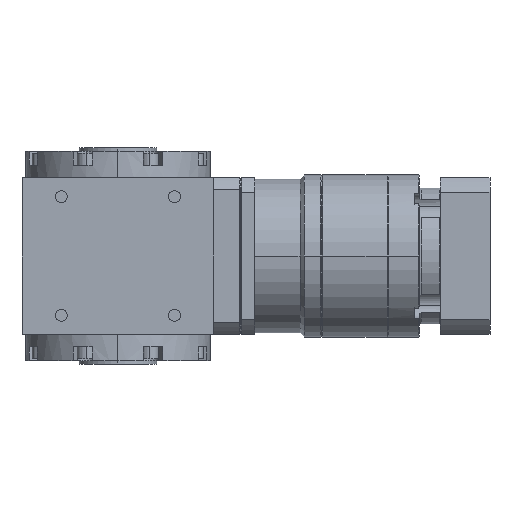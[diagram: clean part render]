
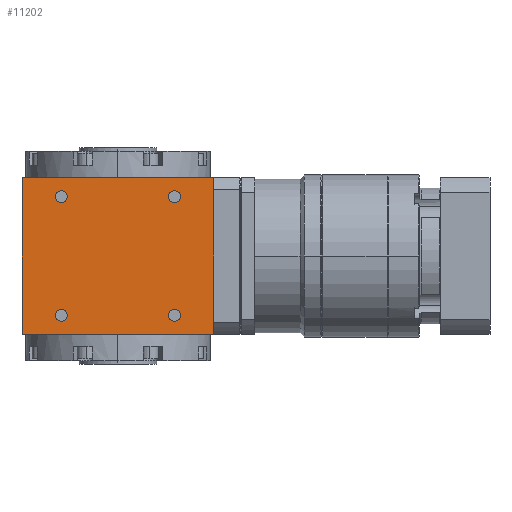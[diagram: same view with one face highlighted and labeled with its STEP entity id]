
A CAD part, left-side view. The second image highlights one B-rep face of the part: STEP entity #11202.
In plain terms, the highlighted planar face has unit normal (-1, 0, 0).
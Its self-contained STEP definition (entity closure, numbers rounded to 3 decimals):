
#271 = CARTESIAN_POINT ( 'NONE',  ( -55., -55., -45. ) ) ;
#272 = DIRECTION ( 'NONE',  ( 0., -1., 0. ) ) ;
#544 = CARTESIAN_POINT ( 'NONE',  ( -55., 29.1, 34. ) ) ;
#702 = AXIS2_PLACEMENT_3D ( 'NONE', #6151, #7233, #1835 ) ;
#737 = VERTEX_POINT ( 'NONE', #8439 ) ;
#740 = CARTESIAN_POINT ( 'NONE',  ( -55., -55., -45. ) ) ;
#814 = EDGE_CURVE ( 'NONE', #5745, #1690, #6942, .T. ) ;
#829 = CARTESIAN_POINT ( 'NONE',  ( -55., -29.1, -34. ) ) ;
#994 = ORIENTED_EDGE ( 'NONE', *, *, #3991, .F. ) ;
#1082 = VERTEX_POINT ( 'NONE', #271 ) ;
#1084 = VERTEX_POINT ( 'NONE', #544 ) ;
#1160 = AXIS2_PLACEMENT_3D ( 'NONE', #11432, #12711, #10641 ) ;
#1309 = CARTESIAN_POINT ( 'NONE',  ( -55., 32.5, -34. ) ) ;
#1394 = CIRCLE ( 'NONE', #1160, 3.4 ) ;
#1610 = FACE_BOUND ( 'NONE', #4603, .T. ) ;
#1657 = DIRECTION ( 'NONE',  ( 0., -1., 0. ) ) ;
#1690 = VERTEX_POINT ( 'NONE', #10479 ) ;
#1771 = VECTOR ( 'NONE', #11636, 1000. ) ;
#1835 = DIRECTION ( 'NONE',  ( 0., -1., 0. ) ) ;
#1875 = EDGE_CURVE ( 'NONE', #4133, #1084, #8519, .T. ) ;
#2051 = ORIENTED_EDGE ( 'NONE', *, *, #3658, .F. ) ;
#2052 = AXIS2_PLACEMENT_3D ( 'NONE', #11522, #13871, #12587 ) ;
#2156 = CIRCLE ( 'NONE', #9650, 3.4 ) ;
#2277 = CIRCLE ( 'NONE', #2052, 3.4 ) ;
#2528 = FACE_OUTER_BOUND ( 'NONE', #9626, .T. ) ;
#2548 = CARTESIAN_POINT ( 'NONE',  ( -55., 0., 45. ) ) ;
#2675 = ORIENTED_EDGE ( 'NONE', *, *, #4888, .T. ) ;
#2712 = ORIENTED_EDGE ( 'NONE', *, *, #12913, .T. ) ;
#2854 = AXIS2_PLACEMENT_3D ( 'NONE', #3881, #8232, #7158 ) ;
#2903 = ORIENTED_EDGE ( 'NONE', *, *, #5130, .T. ) ;
#2906 = ORIENTED_EDGE ( 'NONE', *, *, #5305, .T. ) ;
#2994 = DIRECTION ( 'NONE',  ( 0., -1., 0. ) ) ;
#3439 = EDGE_CURVE ( 'NONE', #1084, #4133, #5835, .T. ) ;
#3464 = CARTESIAN_POINT ( 'NONE',  ( -55., 55., 45. ) ) ;
#3658 = EDGE_CURVE ( 'NONE', #11917, #737, #5528, .T. ) ;
#3881 = CARTESIAN_POINT ( 'NONE',  ( -55., 32.5, -34. ) ) ;
#3991 = EDGE_CURVE ( 'NONE', #9541, #11917, #4929, .T. ) ;
#4133 = VERTEX_POINT ( 'NONE', #6677 ) ;
#4304 = EDGE_LOOP ( 'NONE', ( #9948, #11563 ) ) ;
#4319 = VECTOR ( 'NONE', #272, 1000. ) ;
#4603 = EDGE_LOOP ( 'NONE', ( #2906, #2675 ) ) ;
#4638 = ORIENTED_EDGE ( 'NONE', *, *, #1875, .T. ) ;
#4888 = EDGE_CURVE ( 'NONE', #9495, #9686, #2277, .T. ) ;
#4929 = LINE ( 'NONE', #7137, #1771 ) ;
#4933 = CARTESIAN_POINT ( 'NONE',  ( -55., 55., -45. ) ) ;
#4955 = EDGE_CURVE ( 'NONE', #11305, #9511, #5444, .T. ) ;
#5045 = DIRECTION ( 'NONE',  ( 0., 0., 1. ) ) ;
#5130 = EDGE_CURVE ( 'NONE', #9541, #1082, #5789, .T. ) ;
#5305 = EDGE_CURVE ( 'NONE', #9686, #9495, #1394, .T. ) ;
#5410 = DIRECTION ( 'NONE',  ( 1., 0., 0. ) ) ;
#5444 = CIRCLE ( 'NONE', #702, 3.4 ) ;
#5469 = EDGE_LOOP ( 'NONE', ( #2712, #6901 ) ) ;
#5528 = LINE ( 'NONE', #2548, #9947 ) ;
#5745 = VERTEX_POINT ( 'NONE', #7384 ) ;
#5789 = LINE ( 'NONE', #8936, #4319 ) ;
#5813 = DIRECTION ( 'NONE',  ( 0., -1., 0. ) ) ;
#5835 = CIRCLE ( 'NONE', #12458, 3.4 ) ;
#5838 = ORIENTED_EDGE ( 'NONE', *, *, #3439, .T. ) ;
#5861 = FACE_BOUND ( 'NONE', #5469, .T. ) ;
#6013 = AXIS2_PLACEMENT_3D ( 'NONE', #10842, #5410, #2994 ) ;
#6151 = CARTESIAN_POINT ( 'NONE',  ( -55., -32.5, 34. ) ) ;
#6202 = CARTESIAN_POINT ( 'NONE',  ( -55., -29.1, 34. ) ) ;
#6347 = CARTESIAN_POINT ( 'NONE',  ( -55., 55., -45. ) ) ;
#6677 = CARTESIAN_POINT ( 'NONE',  ( -55., 35.9, 34. ) ) ;
#6702 = CARTESIAN_POINT ( 'NONE',  ( -55., -35.9, -34. ) ) ;
#6901 = ORIENTED_EDGE ( 'NONE', *, *, #4955, .T. ) ;
#6942 = CIRCLE ( 'NONE', #2854, 3.4 ) ;
#7079 = FACE_BOUND ( 'NONE', #9338, .T. ) ;
#7137 = CARTESIAN_POINT ( 'NONE',  ( -55., 55., -45. ) ) ;
#7158 = DIRECTION ( 'NONE',  ( 0., -1., 0. ) ) ;
#7233 = DIRECTION ( 'NONE',  ( 1., 0., 0. ) ) ;
#7260 = EDGE_CURVE ( 'NONE', #1690, #5745, #9818, .T. ) ;
#7384 = CARTESIAN_POINT ( 'NONE',  ( -55., 35.9, -34. ) ) ;
#7533 = DIRECTION ( 'NONE',  ( 0., -1., 0. ) ) ;
#7646 = ORIENTED_EDGE ( 'NONE', *, *, #8099, .T. ) ;
#7907 = DIRECTION ( 'NONE',  ( 1., 0., 0. ) ) ;
#8006 = PLANE ( 'NONE',  #9967 ) ;
#8099 = EDGE_CURVE ( 'NONE', #1082, #737, #11763, .T. ) ;
#8232 = DIRECTION ( 'NONE',  ( 1., 0., 0. ) ) ;
#8439 = CARTESIAN_POINT ( 'NONE',  ( -55., -55., 45. ) ) ;
#8519 = CIRCLE ( 'NONE', #6013, 3.4 ) ;
#8677 = DIRECTION ( 'NONE',  ( 1., 0., 0. ) ) ;
#8936 = CARTESIAN_POINT ( 'NONE',  ( -55., 0., -45. ) ) ;
#9219 = FACE_BOUND ( 'NONE', #4304, .T. ) ;
#9338 = EDGE_LOOP ( 'NONE', ( #5838, #4638 ) ) ;
#9495 = VERTEX_POINT ( 'NONE', #829 ) ;
#9511 = VERTEX_POINT ( 'NONE', #11786 ) ;
#9541 = VERTEX_POINT ( 'NONE', #6347 ) ;
#9626 = EDGE_LOOP ( 'NONE', ( #994, #2903, #7646, #2051 ) ) ;
#9650 = AXIS2_PLACEMENT_3D ( 'NONE', #11553, #10537, #1657 ) ;
#9686 = VERTEX_POINT ( 'NONE', #6702 ) ;
#9818 = CIRCLE ( 'NONE', #10958, 3.4 ) ;
#9914 = VECTOR ( 'NONE', #5045, 1000. ) ;
#9947 = VECTOR ( 'NONE', #5813, 1000. ) ;
#9948 = ORIENTED_EDGE ( 'NONE', *, *, #7260, .T. ) ;
#9967 = AXIS2_PLACEMENT_3D ( 'NONE', #4933, #10429, #13578 ) ;
#10429 = DIRECTION ( 'NONE',  ( -1., 0., 0. ) ) ;
#10479 = CARTESIAN_POINT ( 'NONE',  ( -55., 29.1, -34. ) ) ;
#10537 = DIRECTION ( 'NONE',  ( 1., 0., 0. ) ) ;
#10641 = DIRECTION ( 'NONE',  ( 0., -1., 0. ) ) ;
#10842 = CARTESIAN_POINT ( 'NONE',  ( -55., 32.5, 34. ) ) ;
#10958 = AXIS2_PLACEMENT_3D ( 'NONE', #1309, #7907, #12266 ) ;
#11202 = ADVANCED_FACE ( 'NONE', ( #2528, #7079, #9219, #1610, #5861 ), #8006, .T. ) ;
#11305 = VERTEX_POINT ( 'NONE', #6202 ) ;
#11432 = CARTESIAN_POINT ( 'NONE',  ( -55., -32.5, -34. ) ) ;
#11522 = CARTESIAN_POINT ( 'NONE',  ( -55., -32.5, -34. ) ) ;
#11553 = CARTESIAN_POINT ( 'NONE',  ( -55., -32.5, 34. ) ) ;
#11563 = ORIENTED_EDGE ( 'NONE', *, *, #814, .T. ) ;
#11636 = DIRECTION ( 'NONE',  ( 0., 0., 1. ) ) ;
#11763 = LINE ( 'NONE', #740, #9914 ) ;
#11786 = CARTESIAN_POINT ( 'NONE',  ( -55., -35.9, 34. ) ) ;
#11917 = VERTEX_POINT ( 'NONE', #3464 ) ;
#12266 = DIRECTION ( 'NONE',  ( 0., -1., 0. ) ) ;
#12458 = AXIS2_PLACEMENT_3D ( 'NONE', #12890, #8677, #7533 ) ;
#12587 = DIRECTION ( 'NONE',  ( 0., -1., 0. ) ) ;
#12711 = DIRECTION ( 'NONE',  ( 1., 0., 0. ) ) ;
#12890 = CARTESIAN_POINT ( 'NONE',  ( -55., 32.5, 34. ) ) ;
#12913 = EDGE_CURVE ( 'NONE', #9511, #11305, #2156, .T. ) ;
#13578 = DIRECTION ( 'NONE',  ( 0., 0., 1. ) ) ;
#13871 = DIRECTION ( 'NONE',  ( 1., 0., 0. ) ) ;
